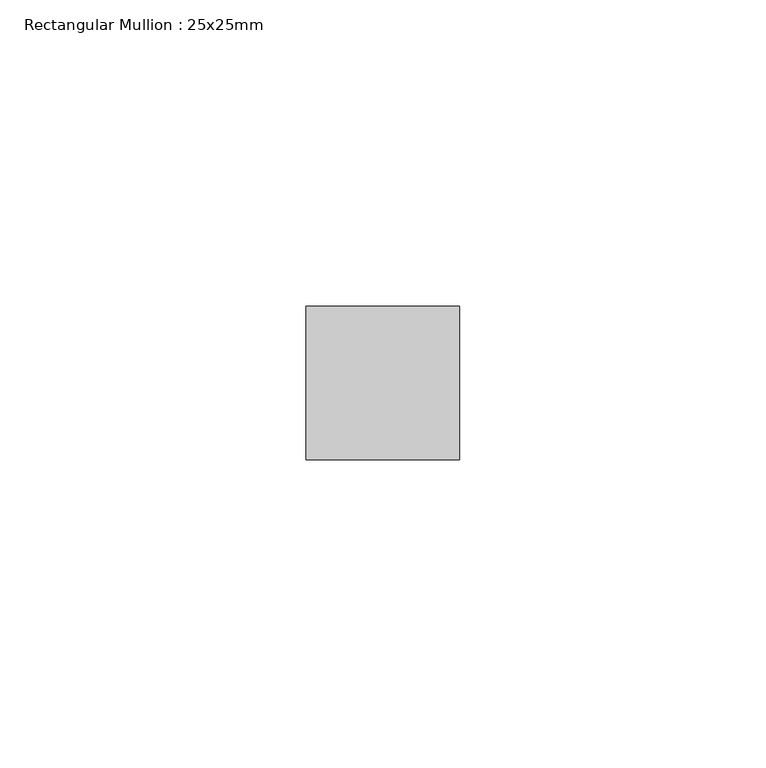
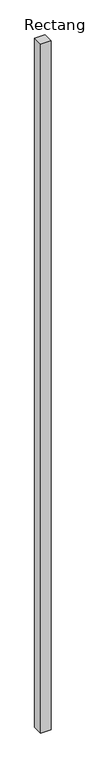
"""IFC4 building model written with IfcOpenShell, lengths in millimetres: member geometry, Rectangular Mullion : 25x25mm."""

from ifc_helpers import new_model, si_unit, frame, origin, place, context, project, spatial, polyline, outline, extrude, source, transform, mapped, element, save


def rectangular_mullion_25x25mm_7c56b39c(model_context):
    return source(origin(), model_context, "Body", "SweptSolid", [
        extrude(outline(polyline([(12.5, 0.5), (12.5, -24.5), (-12.5, -24.5), (-12.5, 0.5), (12.5, 0.5)])), frame((0.0, 0.0, -1745.0349339), z_axis=(0.0, 0.0, 1.0), x_axis=(1.0, 0.0, 0.0)), (0.0, 0.0, 1.0), 1745.0349339),
    ])


if __name__ == "__main__":
    model = new_model("IFC4")
    model_context = context("Model", 3, world=origin())
    ifc_project = project(units=[si_unit("LENGTHUNIT", "METRE", prefix="MILLI")], contexts=[model_context])
    site = spatial("IfcSite", under=ifc_project)
    building = spatial("IfcBuilding", under=site)
    placement = place(None, origin())
    rectangular_mullion_25x25mm_shape = rectangular_mullion_25x25mm_7c56b39c(model_context)
    element("IfcMember", 1, ObjectType="Rectangular Mullion : 25x25mm", at=placement, inside=building, context=model_context, shape_type="MappedRepresentation", body=[
        mapped(rectangular_mullion_25x25mm_shape, transform((0.0, 0.0, 0.0), x_axis=(1.0, 0.0, 0.0), y_axis=(0.0, 1.0, 0.0), z_axis=(0.0, 0.0, 1.0))),
    ])
    save(model, "model.ifc")
